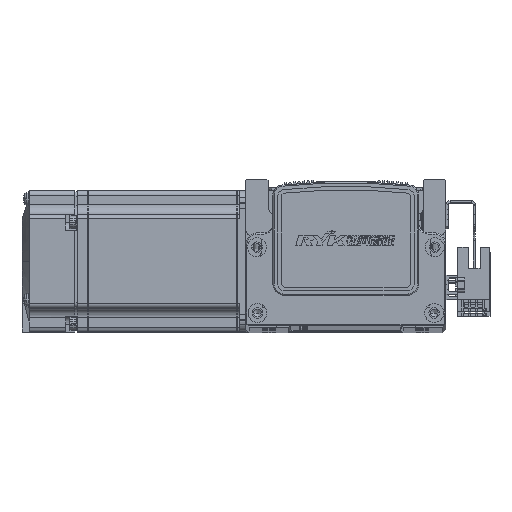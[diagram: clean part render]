
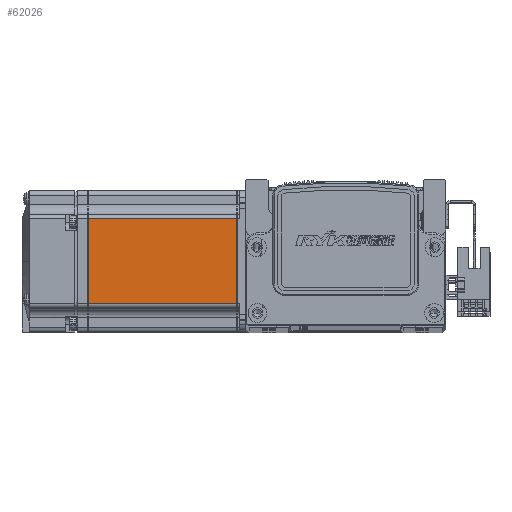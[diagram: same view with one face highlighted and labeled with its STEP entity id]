
A CAD part, top view. The second image highlights one B-rep face of the part: STEP entity #62026.
In plain terms, the highlighted planar face has unit normal (0, 0, 1) as drawn and (0, 0, -1) by its records, which use the part's own axes.
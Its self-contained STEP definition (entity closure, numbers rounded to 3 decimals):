
#4427 = VERTEX_POINT ( 'NONE', #58754 ) ;
#4520 = VERTEX_POINT ( 'NONE', #58688 ) ;
#4559 = VERTEX_POINT ( 'NONE', #58783 ) ;
#4567 = VERTEX_POINT ( 'NONE', #58779 ) ;
#7572 = ORIENTED_EDGE ( 'NONE', *, *, #51884, .T. ) ;
#7619 = ORIENTED_EDGE ( 'NONE', *, *, #51874, .T. ) ;
#7682 = ORIENTED_EDGE ( 'NONE', *, *, #51845, .T. ) ;
#7696 = ORIENTED_EDGE ( 'NONE', *, *, #51862, .T. ) ;
#19391 = AXIS2_PLACEMENT_3D ( 'NONE', #70698, #70708, #70730 ) ;
#51845 = EDGE_CURVE ( 'NONE', #4520, #4427, #76707, .T. ) ;
#51862 = EDGE_CURVE ( 'NONE', #4567, #4559, #76732, .T. ) ;
#51874 = EDGE_CURVE ( 'NONE', #4427, #4567, #76725, .T. ) ;
#51884 = EDGE_CURVE ( 'NONE', #4559, #4520, #76793, .T. ) ;
#58688 = CARTESIAN_POINT ( 'NONE',  ( -70.95, -18., -30. ) ) ;
#58754 = CARTESIAN_POINT ( 'NONE',  ( -70.95, 18., -30. ) ) ;
#58779 = CARTESIAN_POINT ( 'NONE',  ( -7.75, 18., -30. ) ) ;
#58783 = CARTESIAN_POINT ( 'NONE',  ( -7.75, -18., -30. ) ) ;
#62026 = ADVANCED_FACE ( 'NONE', ( #74643 ), #70647, .T. ) ;
#63818 = EDGE_LOOP ( 'NONE', ( #7696, #7572, #7682, #7619 ) ) ;
#67687 = DIRECTION ( 'NONE',  ( 0., 1., 0. ) ) ;
#67696 = CARTESIAN_POINT ( 'NONE',  ( -70.95, 25., -30. ) ) ;
#67721 = CARTESIAN_POINT ( 'NONE',  ( -7.75, 25., -30. ) ) ;
#67735 = DIRECTION ( 'NONE',  ( 0., -1., 0. ) ) ;
#67775 = CARTESIAN_POINT ( 'NONE',  ( -6.5, 18., -30. ) ) ;
#67781 = DIRECTION ( 'NONE',  ( -1., 0., 0. ) ) ;
#67792 = CARTESIAN_POINT ( 'NONE',  ( -6.5, -18., -30. ) ) ;
#67798 = DIRECTION ( 'NONE',  ( 1., 0., 0. ) ) ;
#70647 = PLANE ( 'NONE',  #19391 ) ;
#70698 = CARTESIAN_POINT ( 'NONE',  ( -6.5, 25., -30. ) ) ;
#70708 = DIRECTION ( 'NONE',  ( 0., 0., -1. ) ) ;
#70730 = DIRECTION ( 'NONE',  ( -1., 0., 0. ) ) ;
#74643 = FACE_OUTER_BOUND ( 'NONE', #63818, .T. ) ;
#76707 = LINE ( 'NONE', #67696, #76767 ) ;
#76709 = VECTOR ( 'NONE', #67735, 1000. ) ;
#76725 = LINE ( 'NONE', #67775, #76726 ) ;
#76726 = VECTOR ( 'NONE', #67798, 1000. ) ;
#76732 = LINE ( 'NONE', #67721, #76709 ) ;
#76767 = VECTOR ( 'NONE', #67687, 1000. ) ;
#76780 = VECTOR ( 'NONE', #67781, 1000. ) ;
#76793 = LINE ( 'NONE', #67792, #76780 ) ;
